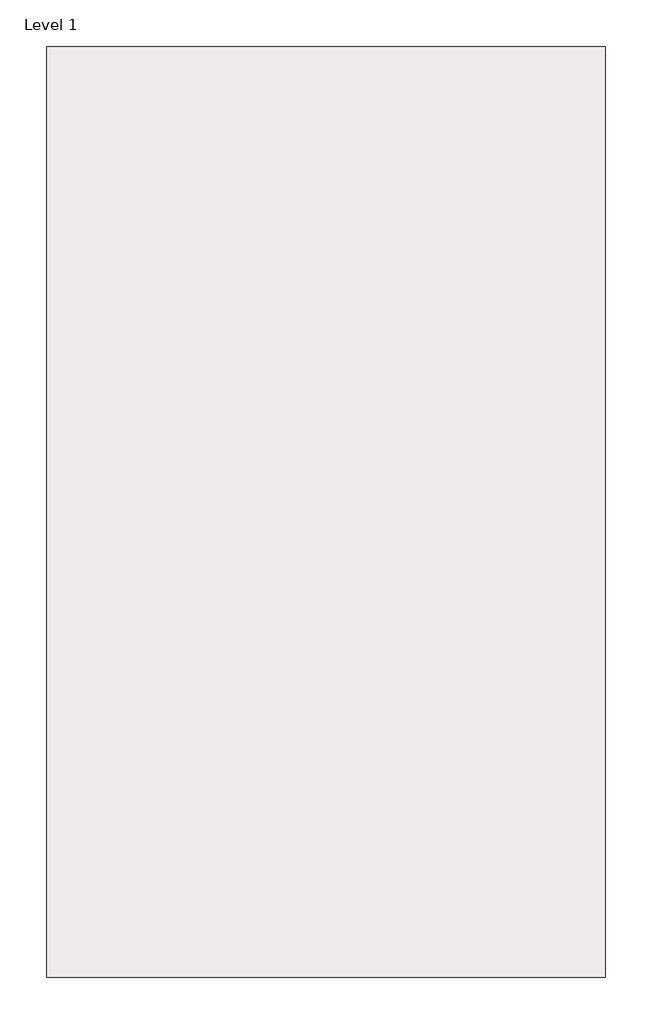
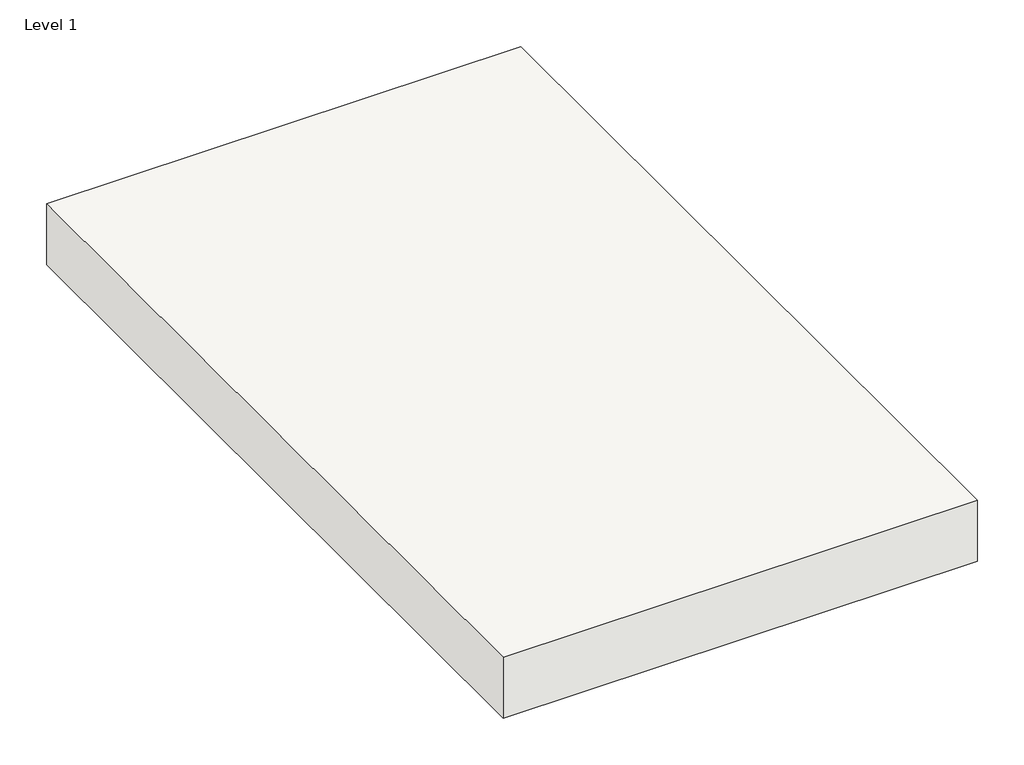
# One storey: 1 slab.
"""IFC4 building model written with IfcOpenShell, lengths in millimetres."""

import ifcopenshell
import ifcopenshell.guid

model = None  # the IFC model being written
_history = None  # IfcOwnerHistory: only IFC2X3 demands one
_inside = {}  # id of a spatial element -> (the spatial element, [elements in it])
_under = {}  # id of a project, library or spatial element -> (it, [spatial elements below it])
_declared = {}  # id of a project -> (the project, [libraries it declares])
_typed = {}  # id of a type object -> (the type object, [elements of that type])
_made_of = {}  # id of a material, layer set ... -> (it, [elements and type objects made of it])


def new_model(schema):
    """Start an empty IFC model of exactly this schema.

    Asked for "IFC4X3", IfcOpenShell would pick the latest addendum, in which some entities
    have other attributes; the version numbers below select the first issue.
    IFC2X3 requires an IfcOwnerHistory on every rooted entity: one is made here for all.
    """
    global model, _history
    if schema == "IFC4X3":
        model = ifcopenshell.file(schema_version=(4, 3, 0, 0))
    else:
        model = ifcopenshell.file(schema=schema)
    _inside.clear()
    _under.clear()
    _declared.clear()
    _typed.clear()
    _made_of.clear()
    _history = None
    if model.schema == "IFC2X3":
        org = make("IfcOrganization", Name="unknown")
        user = make(
            "IfcPersonAndOrganization",
            ThePerson=make("IfcPerson", FamilyName="unknown"),
            TheOrganization=org,
        )
        app = make(
            "IfcApplication",
            ApplicationDeveloper=org,
            Version="unknown",
            ApplicationFullName="unknown",
            ApplicationIdentifier="unknown",
        )
        _history = make(
            "IfcOwnerHistory",
            OwningUser=user,
            OwningApplication=app,
            ChangeAction="ADDED",
            CreationDate=0,
        )
    return model


def make(cls, **values):
    """One entity of the class cls with the attributes given. An attribute that is None is left unset."""
    return model.create_entity(
        cls, **{name: value for name, value in values.items() if value is not None}
    )


def rooted(cls, **values):
    """An entity with a GlobalId (a new one), such as an element, a storey or a relation."""
    return make(cls, GlobalId=ifcopenshell.guid.new(), OwnerHistory=_history, **values)


def si_unit(unit_type, name, prefix=None):
    """IfcSIUnit, for example si_unit("LENGTHUNIT", "METRE", prefix="MILLI")."""
    return make("IfcSIUnit", UnitType=unit_type, Prefix=prefix, Name=name)


def assignment(units):
    """IfcUnitAssignment: the units of a project."""
    return None if units is None else make("IfcUnitAssignment", Units=units)


def point(xyz):
    """IfcCartesianPoint."""
    return None if xyz is None else make("IfcCartesianPoint", Coordinates=xyz)


def direction(xyz):
    """IfcDirection."""
    return None if xyz is None else make("IfcDirection", DirectionRatios=xyz)


def frame(location, z_axis=None, x_axis=None):
    """IfcAxis2Placement3D, a coordinate frame: its origin and axes. An axis left out is left unset."""
    return make(
        "IfcAxis2Placement3D",
        Location=point(location),
        Axis=direction(z_axis),
        RefDirection=direction(x_axis),
    )


def origin():
    """The frame at (0, 0, 0) with its axes left unset."""
    return frame((0.0, 0.0, 0.0))


def place(relative_to, where):
    """IfcLocalPlacement: puts the frame where relative to a parent placement (None: the world)."""
    return make(
        "IfcLocalPlacement", PlacementRelTo=relative_to, RelativePlacement=where
    )


def context(
    kind, dimensions, precision=None, world=None, true_north=None, identifier=None
):
    """IfcGeometricRepresentationContext, for example the 3D "Model" context."""
    return make(
        "IfcGeometricRepresentationContext",
        ContextIdentifier=identifier,
        ContextType=kind,
        CoordinateSpaceDimension=dimensions,
        Precision=precision,
        WorldCoordinateSystem=world,
        TrueNorth=true_north,
    )


def project(units=None, contexts=None):
    """IfcProject with its units and contexts."""
    return rooted(
        "IfcProject",
        Name="project",
        RepresentationContexts=contexts,
        UnitsInContext=assignment(units),
    )


def spatial(cls, under=None, at=None, **own):
    """A site, building, storey or space (cls), placed at a placement, below another one or the project."""
    s = rooted(cls, ObjectPlacement=at, **own)
    if under is not None:
        _under.setdefault(under.id(), (under, []))[1].append(s)
    return s


def polyline(points):
    """IfcPolyline through the points."""
    return make("IfcPolyline", Points=[point(p) for p in points])


def outline(outer, holes=None, kind="AREA"):
    """IfcArbitraryClosedProfileDef: a profile drawn as a closed curve; with holes, ...WithVoids."""
    if holes is None:
        return make("IfcArbitraryClosedProfileDef", ProfileType=kind, OuterCurve=outer)
    return make(
        "IfcArbitraryProfileDefWithVoids",
        ProfileType=kind,
        OuterCurve=outer,
        InnerCurves=holes,
    )


def extrude(swept, where, along, depth):
    """IfcExtrudedAreaSolid: the profile swept, set in the frame where, extruded along a direction by depth."""
    return make(
        "IfcExtrudedAreaSolid",
        SweptArea=swept,
        Position=where,
        ExtrudedDirection=direction(along),
        Depth=depth,
    )


def shape(context_of_items, identifier, shape_type, items):
    """IfcShapeRepresentation: the items that make up one representation, for example the "Body"."""
    return make(
        "IfcShapeRepresentation",
        ContextOfItems=context_of_items,
        RepresentationIdentifier=identifier,
        RepresentationType=shape_type,
        Items=items,
    )


def made_of(thing, what):
    """Note that an element or type object is made of a material, layer set ...; save() writes the relation."""
    if what is not None:
        _made_of.setdefault(what.id(), (what, []))[1].append(thing)
    return thing


def element(
    cls,
    number,
    at=None,
    inside=None,
    cuts=None,
    type_object=None,
    material=None,
    context=None,
    identifier="Body",
    shape_type=None,
    held_by="IfcProductDefinitionShape",
    body=None,
    shapes=None,
    **own,
):
    """One element of the class cls, such as IfcWall. Its Tag is "e" and its number.

    at: its placement. inside: the storey or other place that contains it. cuts: it is an
    opening in that element (IfcRelVoidsElement). A single representation is given by context,
    identifier, shape_type and body (its items); several are given by shapes. held_by: the class
    of the entity that holds the representations. save() writes the other relations.
    """
    e = rooted(cls, Tag="e%d" % number, ObjectPlacement=at, **own)
    if body is not None:
        shapes = [shape(context, identifier, shape_type, body)]
    if shapes is not None:
        e.Representation = make(held_by, Representations=shapes)
    if inside is not None:
        _inside.setdefault(inside.id(), (inside, []))[1].append(e)
    if cuts is not None:
        rooted(
            "IfcRelVoidsElement", RelatingBuildingElement=cuts, RelatedOpeningElement=e
        )
    if type_object is not None:
        _typed.setdefault(type_object.id(), (type_object, []))[1].append(e)
    return made_of(e, material)


def aggregate(whole, parts):
    """IfcRelAggregates: a whole, such as a stair, and the parts it consists of."""
    return rooted("IfcRelAggregates", RelatingObject=whole, RelatedObjects=parts)


def save(model, path):
    """Write the relations noted so far, then the file.

    IfcRelAggregates (storeys below a building ...), IfcRelContainedInSpatialStructure (elements
    in a storey), IfcRelDefinesByType, IfcRelAssociatesMaterial and IfcRelDeclares: one each for
    every whole, place, type object, material and project.
    """
    for whole, parts in _under.values():
        aggregate(whole, parts)
    for where, things in _inside.values():
        rooted(
            "IfcRelContainedInSpatialStructure",
            RelatedElements=things,
            RelatingStructure=where,
        )
    for kind, things in _typed.values():
        rooted("IfcRelDefinesByType", RelatedObjects=things, RelatingType=kind)
    for what, things in _made_of.values():
        rooted("IfcRelAssociatesMaterial", RelatedObjects=things, RelatingMaterial=what)
    for by, libraries in _declared.values():
        rooted("IfcRelDeclares", RelatingContext=by, RelatedDefinitions=libraries)
    model.write(path)


model = new_model("IFC4")

# Units and contexts
model_context = context("Model", 3, world=origin())
ifc_project = project(units=[si_unit("LENGTHUNIT", "METRE", prefix="MILLI")], contexts=[model_context])

# Site, building, storey
site = spatial("IfcSite", under=ifc_project)
building = spatial("IfcBuilding", under=site)
storey = spatial("IfcBuildingStorey", under=building, Name="Level 1", Elevation=0.0)

# Slab
placement = place(None, origin())
element("IfcSlab", 1, ObjectType="ENVFN7.9", at=placement, inside=storey, context=model_context, shape_type="SweptSolid", body=[
    extrude(outline(polyline([(2747.4282268, 3623.6822678), (2747.4282268, 575.6822678), (918.6282268, 575.6822678), (918.6282268, 3623.6822678), (2747.4282268, 3623.6822678)])), frame((0.0, 0.0, -248.44375), z_axis=(0.0, 0.0, 1.0), x_axis=(1.0, 0.0, 0.0)), (0.0, 0.0, 1.0), 248.44375),
])

save(model, "model.ifc")
